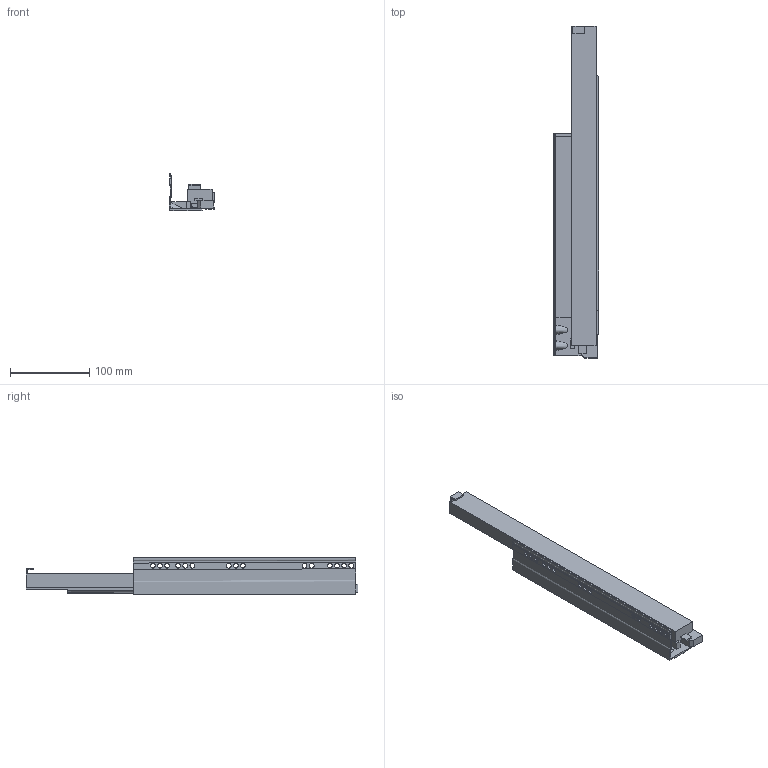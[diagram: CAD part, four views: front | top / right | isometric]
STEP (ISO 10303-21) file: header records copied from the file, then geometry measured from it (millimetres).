
FILE_DESCRIPTION (( 'STEP AP214' ), '1' );
FILE_NAME ('_IMOS_Dynapro_Softclose_D514_NL_420_LI.step', '2010-07-16T06:01:05', ( 'grass' ), ( '' ), 'SwSTEP 2.0', 'SolidWorks 2009', '' );
FILE_SCHEMA (( 'AUTOMOTIVE_DESIGN' ));
Length unit declared in the file: millimetre
Products named in the file (1): _IMOS_Dynapro_Softclose_D514_NL_420_LI
Bounding box: 57.08 x 420.07 x 47.86 mm (x, y, z)
Volume: 366644.4 mm3; surface area: 117087.4 mm2
Topology: 1 solids, 1 shells, 113 faces, 388 edges, 273 vertices
Faces by surface type: plane 76, cylinder 30, bspline 7
Entity records: 5014 total; most frequent: CARTESIAN_POINT 1489, ORIENTED_EDGE 768, DIRECTION 676, EDGE_CURVE 384, VECTOR 300, LINE 300, VERTEX_POINT 273, AXIS2_PLACEMENT_3D 188
